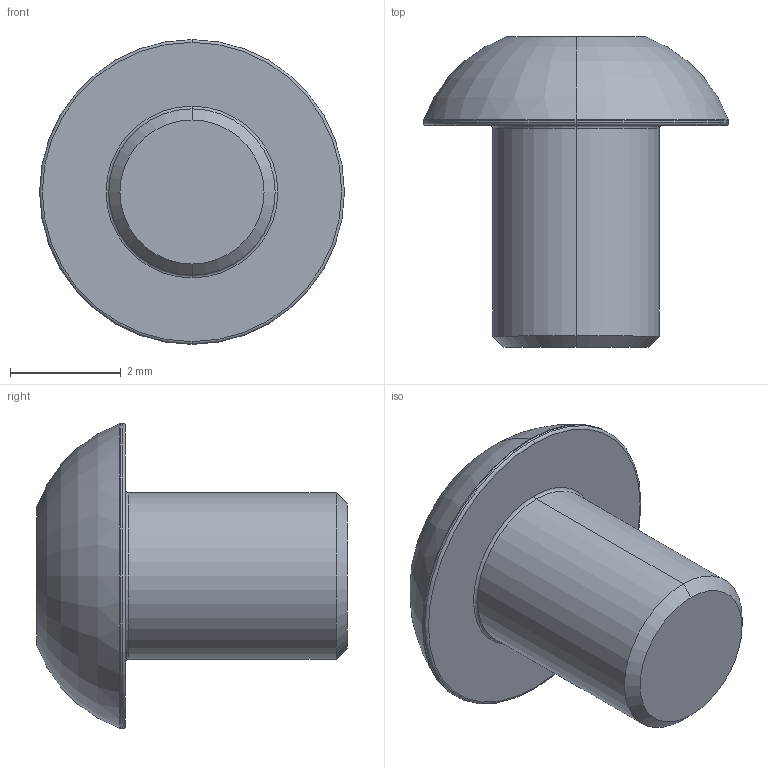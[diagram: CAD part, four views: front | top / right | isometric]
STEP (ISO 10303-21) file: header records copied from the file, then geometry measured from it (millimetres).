
FILE_DESCRIPTION (( 'STEP AP203' ), '1' );
FILE_NAME ('LGDD-TD-M3x4.STEP', '2026-08-13T14:33:45', ( '' ), ( '' ), 'SwSTEP 2.0', 'SolidWorks 2020', '' );
FILE_SCHEMA (( 'CONFIG_CONTROL_DESIGN' ));
Length unit declared in the file: millimetre
Products named in the file (1): LGDD-TD-M3x4
Bounding box: 5.5 x 5.6 x 5.5 mm (x, y, z)
Volume: 49.7 mm3; surface area: 104.8 mm2
Topology: 1 solids, 1 shells, 31 faces, 59 edges, 32 vertices
Faces by surface type: plane 10, cone 9, torus 8, cylinder 4
Entity records: 876 total; most frequent: CARTESIAN_POINT 166, DIRECTION 149, ORIENTED_EDGE 118, AXIS2_PLACEMENT_3D 65, EDGE_CURVE 59, CIRCLE 33, EDGE_LOOP 33, VERTEX_POINT 32
